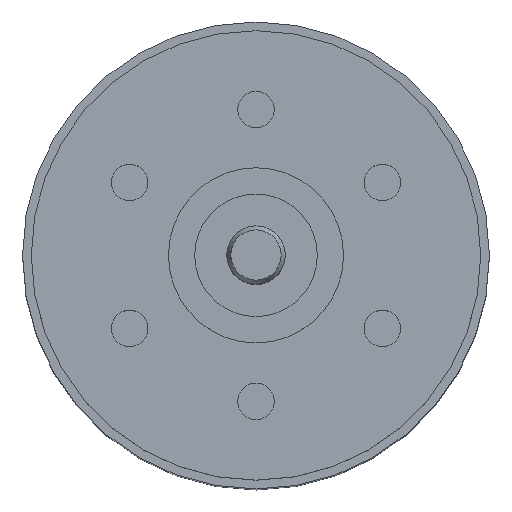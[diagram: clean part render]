
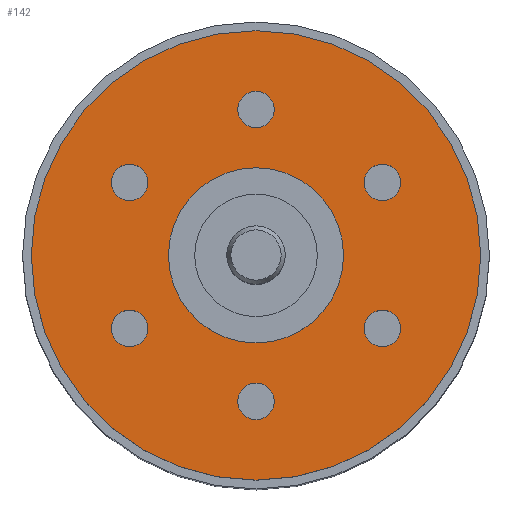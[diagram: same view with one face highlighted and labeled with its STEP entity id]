
A CAD part, top view. The second image highlights one B-rep face of the part: STEP entity #142.
In plain terms, the highlighted planar face has unit normal (0, 0, 1).
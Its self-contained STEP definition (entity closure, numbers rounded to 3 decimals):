
#142=ADVANCED_FACE('',(#382,#383,#384,#385,#386,#387,#388,#389),#239,.T.);
#239=PLANE('',#1518);
#304=CIRCLE('',#1510,3.);
#305=CIRCLE('',#1511,0.625);
#306=CIRCLE('',#1512,0.625);
#307=CIRCLE('',#1513,0.625);
#308=CIRCLE('',#1514,0.625);
#309=CIRCLE('',#1515,0.625);
#310=CIRCLE('',#1516,0.625);
#311=CIRCLE('',#1517,7.7);
#382=FACE_BOUND('',#478,.T.);
#383=FACE_BOUND('',#479,.T.);
#384=FACE_BOUND('',#480,.T.);
#385=FACE_BOUND('',#481,.T.);
#386=FACE_BOUND('',#482,.T.);
#387=FACE_BOUND('',#483,.T.);
#388=FACE_BOUND('',#484,.T.);
#389=FACE_BOUND('',#485,.T.);
#478=EDGE_LOOP('',(#650));
#479=EDGE_LOOP('',(#651));
#480=EDGE_LOOP('',(#652));
#481=EDGE_LOOP('',(#653));
#482=EDGE_LOOP('',(#654));
#483=EDGE_LOOP('',(#655));
#484=EDGE_LOOP('',(#656));
#485=EDGE_LOOP('',(#657));
#650=ORIENTED_EDGE('',*,*,#1146,.F.);
#651=ORIENTED_EDGE('',*,*,#1147,.T.);
#652=ORIENTED_EDGE('',*,*,#1148,.T.);
#653=ORIENTED_EDGE('',*,*,#1149,.T.);
#654=ORIENTED_EDGE('',*,*,#1150,.T.);
#655=ORIENTED_EDGE('',*,*,#1151,.T.);
#656=ORIENTED_EDGE('',*,*,#1152,.T.);
#657=ORIENTED_EDGE('',*,*,#1153,.F.);
#1010=VERTEX_POINT('',#2193);
#1011=VERTEX_POINT('',#2195);
#1012=VERTEX_POINT('',#2197);
#1013=VERTEX_POINT('',#2199);
#1014=VERTEX_POINT('',#2201);
#1015=VERTEX_POINT('',#2203);
#1016=VERTEX_POINT('',#2205);
#1017=VERTEX_POINT('',#2207);
#1146=EDGE_CURVE('',#1010,#1010,#304,.T.);
#1147=EDGE_CURVE('',#1011,#1011,#305,.T.);
#1148=EDGE_CURVE('',#1012,#1012,#306,.T.);
#1149=EDGE_CURVE('',#1013,#1013,#307,.T.);
#1150=EDGE_CURVE('',#1014,#1014,#308,.T.);
#1151=EDGE_CURVE('',#1015,#1015,#309,.T.);
#1152=EDGE_CURVE('',#1016,#1016,#310,.T.);
#1153=EDGE_CURVE('',#1017,#1017,#311,.T.);
#1510=AXIS2_PLACEMENT_3D('',#2192,#1720,#1721);
#1511=AXIS2_PLACEMENT_3D('',#2194,#1722,#1723);
#1512=AXIS2_PLACEMENT_3D('',#2196,#1724,#1725);
#1513=AXIS2_PLACEMENT_3D('',#2198,#1726,#1727);
#1514=AXIS2_PLACEMENT_3D('',#2200,#1728,#1729);
#1515=AXIS2_PLACEMENT_3D('',#2202,#1730,#1731);
#1516=AXIS2_PLACEMENT_3D('',#2204,#1732,#1733);
#1517=AXIS2_PLACEMENT_3D('',#2206,#1734,#1735);
#1518=AXIS2_PLACEMENT_3D('',#2208,#1736,#1737);
#1720=DIRECTION('',(0.,0.,1.));
#1721=DIRECTION('',(1.,0.,0.));
#1722=DIRECTION('',(0.,0.,-1.));
#1723=DIRECTION('',(-1.,0.,0.));
#1724=DIRECTION('',(0.,0.,-1.));
#1725=DIRECTION('',(-0.5,-0.866,0.));
#1726=DIRECTION('',(0.,0.,-1.));
#1727=DIRECTION('',(0.5,-0.866,0.));
#1728=DIRECTION('',(0.,0.,-1.));
#1729=DIRECTION('',(1.,0.,0.));
#1730=DIRECTION('',(0.,0.,-1.));
#1731=DIRECTION('',(0.5,0.866,0.));
#1732=DIRECTION('',(0.,0.,-1.));
#1733=DIRECTION('',(-0.5,0.866,0.));
#1734=DIRECTION('',(0.,0.,-1.));
#1735=DIRECTION('',(-1.,0.,0.));
#1736=DIRECTION('',(0.,0.,1.));
#1737=DIRECTION('',(1.,0.,0.));
#2192=CARTESIAN_POINT('',(0.,0.,0.));
#2193=CARTESIAN_POINT('',(3.,0.,0.));
#2194=CARTESIAN_POINT('',(0.,5.,0.));
#2195=CARTESIAN_POINT('',(-0.625,5.,0.));
#2196=CARTESIAN_POINT('',(-4.33,2.5,0.));
#2197=CARTESIAN_POINT('',(-4.643,1.959,0.));
#2198=CARTESIAN_POINT('',(-4.33,-2.5,0.));
#2199=CARTESIAN_POINT('',(-4.018,-3.041,0.));
#2200=CARTESIAN_POINT('',(0.,-5.,0.));
#2201=CARTESIAN_POINT('',(0.625,-5.,0.));
#2202=CARTESIAN_POINT('',(4.33,-2.5,0.));
#2203=CARTESIAN_POINT('',(4.643,-1.959,0.));
#2204=CARTESIAN_POINT('',(4.33,2.5,0.));
#2205=CARTESIAN_POINT('',(4.018,3.041,0.));
#2206=CARTESIAN_POINT('',(0.,0.,0.));
#2207=CARTESIAN_POINT('',(-7.7,0.,0.));
#2208=CARTESIAN_POINT('',(0.,0.,0.));
